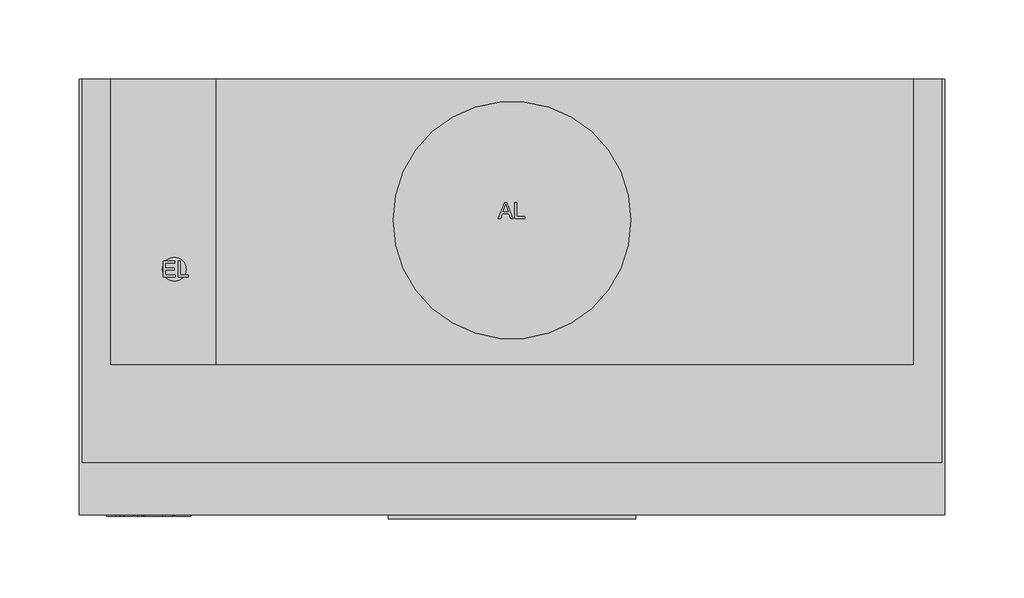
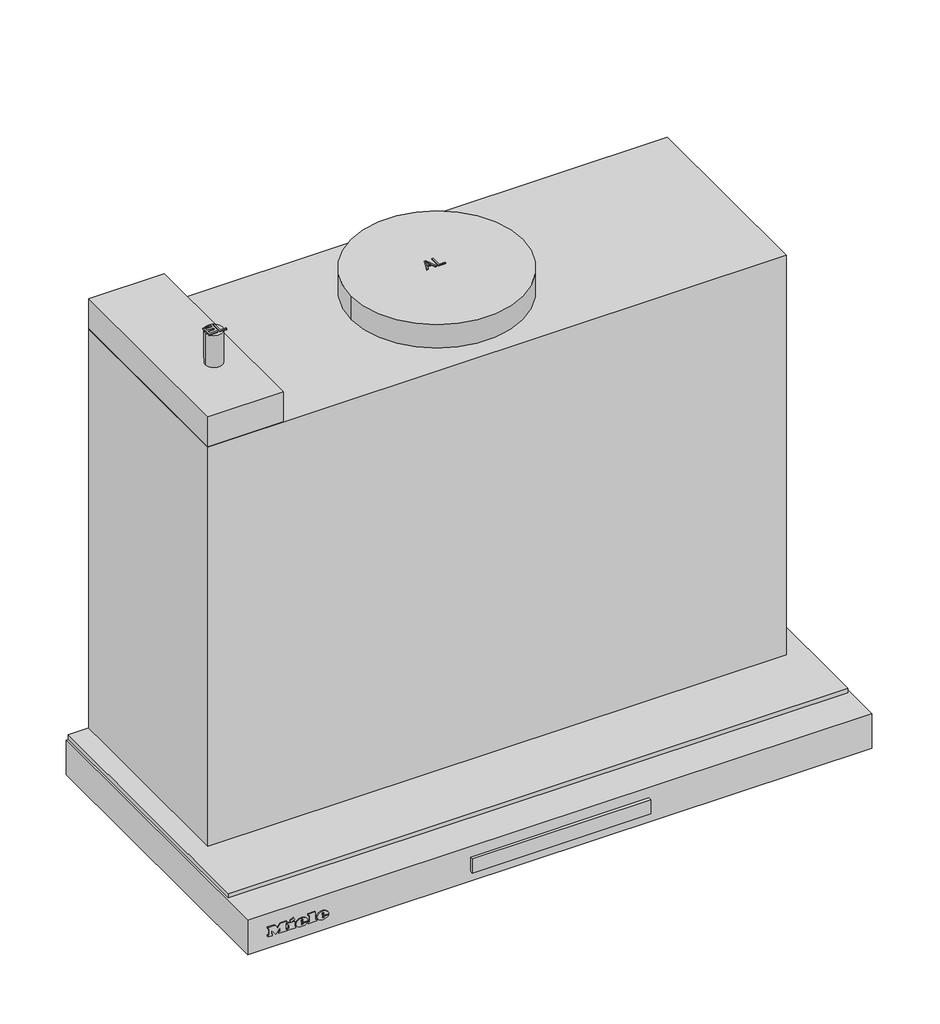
# Not in any storey: 1 proxy.
"""IFC4 building model written with IfcOpenShell, lengths in millimetres."""

from ifc_helpers import new_model, si_unit, origin, place, context, project, spatial, transform, mapped, element, save
from components import specialty_equipment_daa0029f

model = new_model("IFC4")

# Units and contexts
model_context = context("Model", 3, world=origin())
ifc_project = project(units=[si_unit("LENGTHUNIT", "METRE", prefix="MILLI")], contexts=[model_context])

# Site, building
site = spatial("IfcSite", under=ifc_project)
building = spatial("IfcBuilding", under=site)

# Proxy
placement = place(None, origin())
specialty_equipment_shape = specialty_equipment_daa0029f(model_context)
element("IfcBuildingElementProxy", 1, Name="11862900_CH_DAS4520_EDST : 28S4520S_CH_11862900_DAS4520_EDST", ObjectType="11862900_CH_DAS4520_EDST : 28S4520S_CH_11862900_DAS4520_EDST", at=placement, inside=building, context=model_context, shape_type="MappedRepresentation", body=[
    mapped(specialty_equipment_shape, transform((0.0, 0.0, 0.0), x_axis=(1.0, 0.0, 0.0), y_axis=(0.0, 1.0, 0.0), z_axis=(0.0, 0.0, 1.0))),
])

save(model, "model.ifc")
